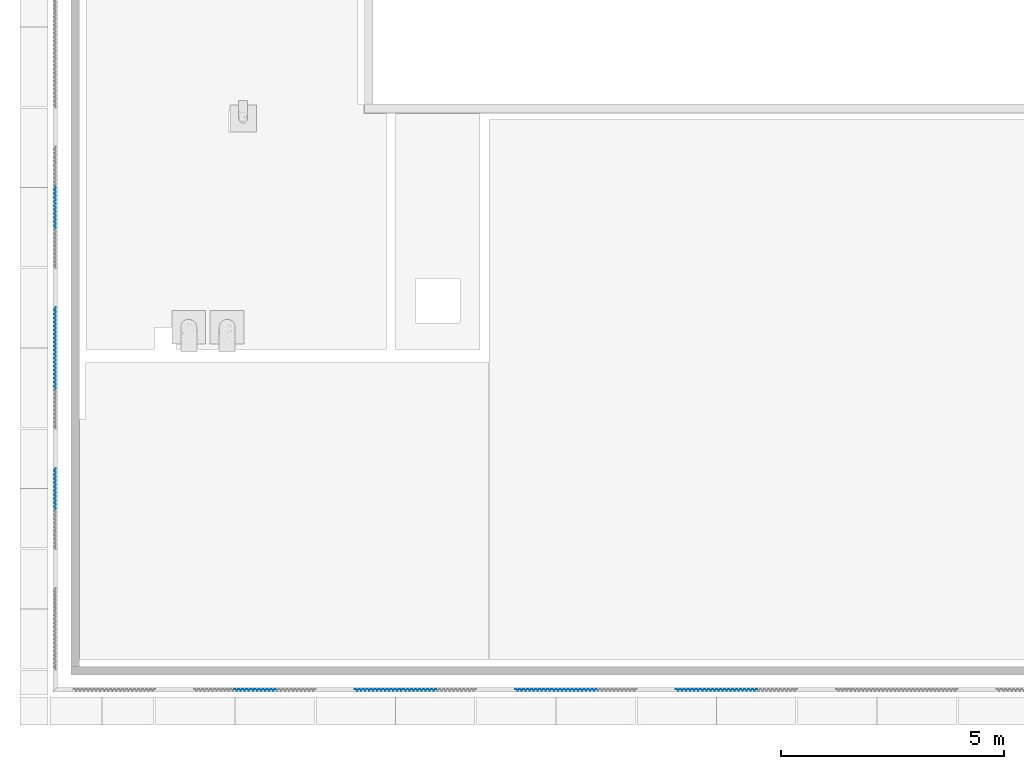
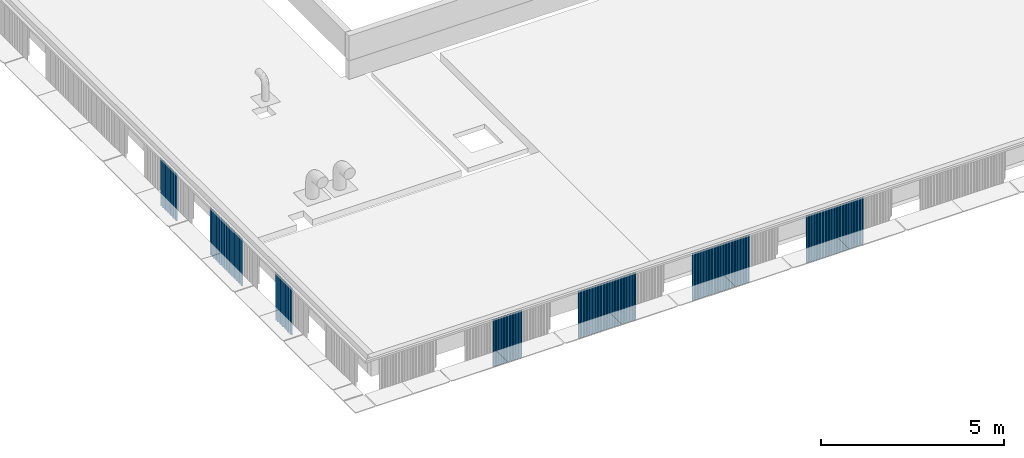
# One storey, part 8 of 37: 11 walls.
"""IFC4X3_ADD2 building model written with IfcOpenShell, lengths in millimetres."""

from ifc_helpers import new_model, si_unit, direction, frame, origin_with_axes, place, context, subcontext, project, spatial, polyline, outline, extrude, material, type_object, element, save


model = new_model("IFC4X3_ADD2")

# Units and contexts
model_context = context("Model", 3, precision=1e-05, world=origin_with_axes(), true_north=direction((0.0, 1.0)))
body_context = subcontext(model_context, "Body", "Model", "MODEL_VIEW")
ifc_project = project(units=[si_unit("LENGTHUNIT", "METRE", prefix="MILLI"), si_unit("AREAUNIT", "SQUARE_METRE"), si_unit("VOLUMEUNIT", "CUBIC_METRE"), si_unit("PLANEANGLEUNIT", "RADIAN"), si_unit("TIMEUNIT", "SECOND"), si_unit("MASSUNIT", "GRAM")], contexts=[model_context])

# Site, building, storey
site_placement = place(None, origin_with_axes())
site = spatial("IfcSite", under=ifc_project, at=site_placement, Name="Site", CompositionType="ELEMENT")
building_placement = place(site_placement, origin_with_axes())
building = spatial("IfcBuilding", under=site, at=building_placement, Name="IFC Building Story")
storey_placement = place(building_placement, frame((0.0, 0.0, 14400.0), z_axis=(0.0, 0.0, 1.0), x_axis=(1.0, 0.0, 0.0)))
storey = spatial("IfcBuildingStorey", under=building, at=storey_placement, Name="040", Elevation=14400.0)

# Walls
ifc_material = material(Name="BB_Metaal_Aluminium_Puntprofiel")
wall_type = type_object("IfcWallType", Name="BB_Metaal_Aluminium_Puntprofiel 1", PredefinedType="NOTDEFINED", material=ifc_material)
wall_1_placement = place(storey_placement, origin_with_axes())
element("IfcWall", 1, at=wall_1_placement, inside=storey, type_object=wall_type, Name="BB_07.10_Gevelbekleding_PuntProfiel, 900 mm, vol_GMO:900 x 1600 mm", ObjectType="BB_07.10_Gevelbekleding_PuntProfiel, 900 mm, vol_GMO:900 x 1600 mm", PredefinedType="NOTDEFINED", context=body_context, shape_type="SweptSolid", body=[
    extrude(outline(polyline([(-349.00000000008, 10.06027913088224), (-371.0000000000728, 10.06027913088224), (-405.0000000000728, -23.93972086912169), (-439.0000000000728, 10.06027913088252), (-461.0000000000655, 10.06027913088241), (-461.4142135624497, 11.060279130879), (-438.5857864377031, 11.060279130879), (-405.0000000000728, -22.52550730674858), (-371.414213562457, 11.06027913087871), (-348.5857864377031, 11.06027913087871), (-315.00000000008, -22.52550730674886), (-281.4142135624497, 11.06027913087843), (-258.5857864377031, 11.06027913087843), (-225.0000000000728, -22.52550730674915), (-191.4142135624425, 11.06027913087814), (-168.5857864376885, 11.06027913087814), (-135.0000000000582, -22.52550730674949), (-101.4142135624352, 11.06027913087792), (-78.58578643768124, 11.06027913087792), (-45.00000000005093, -22.52550730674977), (-11.41421356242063, 11.06027913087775), (11.41421356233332, 11.06027913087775), (44.99999999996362, -22.52550730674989), (78.58578643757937, 11.0602791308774), (101.4142135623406, 11.0602791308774), (134.9999999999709, -22.52550730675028), (168.5857864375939, 11.06027913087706), (191.4142135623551, 11.06027913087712), (224.9999999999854, -22.52550730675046), (258.5857864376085, 11.06027913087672), (281.4142135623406, 11.06027913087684), (314.9999999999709, -22.52550730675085), (348.5857864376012, 11.06027913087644), (371.4142135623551, 11.06027913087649), (404.9999999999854, -22.52550730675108), (438.5857864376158, 11.06027913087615), (461.4142135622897, 11.06027913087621), (460.9999999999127, 10.06027913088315), (438.9999999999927, 10.06027913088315), (404.9999999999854, -23.93972086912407), (370.9999999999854, 10.06027913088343), (348.9999999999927, 10.06027913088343), (314.9999999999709, -23.93972086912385), (280.9999999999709, 10.06027913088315), (259.0, 10.06027913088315), (224.9999999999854, -23.93972086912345), (190.9999999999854, 10.060279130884), (168.9999999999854, 10.060279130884), (134.9999999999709, -23.93972086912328), (100.9999999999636, 10.06027913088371), (78.9999999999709, 10.06027913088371), (44.99999999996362, -23.93972086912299), (10.99999999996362, 10.06027913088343), (-11.00000000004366, 10.06027913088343), (-45.00000000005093, -23.93972086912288), (-79.00000000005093, 10.06027913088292), (-101.0000000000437, 10.06027913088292), (-135.0000000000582, -23.9397208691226), (-169.0000000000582, 10.06027913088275), (-191.0000000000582, 10.06027913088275), (-225.0000000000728, -23.93972086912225), (-259.0000000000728, 10.06027913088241), (-281.0000000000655, 10.06027913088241), (-315.00000000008, -23.93972086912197), (-349.00000000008, 10.06027913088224)])), frame((-41250.00000000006, -426.0602791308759, -960.0), z_axis=(0.0, 0.0, 1.0), x_axis=(1.0, 0.0, 0.0)), (0.0, 0.0, 1.0), 1600.0),
])
wall_2_placement = place(storey_placement, origin_with_axes())
element("IfcWall", 2, at=wall_2_placement, inside=storey, type_object=wall_type, Name="BB_07.10_Gevelbekleding_PuntProfiel, 900 mm, vol_GMO:900 x 1600 mm", ObjectType="BB_07.10_Gevelbekleding_PuntProfiel, 900 mm, vol_GMO:900 x 1600 mm", PredefinedType="NOTDEFINED", context=body_context, shape_type="SweptSolid", body=[
    extrude(outline(polyline([(-349.00000000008, 10.06027913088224), (-371.0000000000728, 10.06027913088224), (-405.0000000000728, -23.93972086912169), (-439.0000000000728, 10.06027913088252), (-461.0000000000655, 10.06027913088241), (-461.4142135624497, 11.060279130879), (-438.5857864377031, 11.060279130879), (-405.0000000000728, -22.52550730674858), (-371.414213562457, 11.06027913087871), (-348.5857864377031, 11.06027913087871), (-315.00000000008, -22.52550730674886), (-281.4142135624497, 11.06027913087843), (-258.5857864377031, 11.06027913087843), (-225.0000000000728, -22.52550730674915), (-191.4142135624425, 11.06027913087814), (-168.5857864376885, 11.06027913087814), (-135.0000000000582, -22.52550730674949), (-101.4142135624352, 11.06027913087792), (-78.58578643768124, 11.06027913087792), (-45.00000000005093, -22.52550730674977), (-11.41421356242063, 11.06027913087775), (11.41421356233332, 11.06027913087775), (44.99999999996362, -22.52550730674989), (78.58578643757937, 11.0602791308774), (101.4142135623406, 11.0602791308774), (134.9999999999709, -22.52550730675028), (168.5857864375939, 11.06027913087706), (191.4142135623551, 11.06027913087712), (224.9999999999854, -22.52550730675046), (258.5857864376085, 11.06027913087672), (281.4142135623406, 11.06027913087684), (314.9999999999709, -22.52550730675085), (348.5857864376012, 11.06027913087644), (371.4142135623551, 11.06027913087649), (404.9999999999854, -22.52550730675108), (438.5857864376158, 11.06027913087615), (461.4142135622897, 11.06027913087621), (460.9999999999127, 10.06027913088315), (438.9999999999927, 10.06027913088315), (404.9999999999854, -23.93972086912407), (370.9999999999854, 10.06027913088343), (348.9999999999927, 10.06027913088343), (314.9999999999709, -23.93972086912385), (280.9999999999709, 10.06027913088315), (259.0, 10.06027913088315), (224.9999999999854, -23.93972086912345), (190.9999999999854, 10.060279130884), (168.9999999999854, 10.060279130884), (134.9999999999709, -23.93972086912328), (100.9999999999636, 10.06027913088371), (78.9999999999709, 10.06027913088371), (44.99999999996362, -23.93972086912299), (10.99999999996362, 10.06027913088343), (-11.00000000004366, 10.06027913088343), (-45.00000000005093, -23.93972086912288), (-79.00000000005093, 10.06027913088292), (-101.0000000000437, 10.06027913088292), (-135.0000000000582, -23.9397208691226), (-169.0000000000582, 10.06027913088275), (-191.0000000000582, 10.06027913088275), (-225.0000000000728, -23.93972086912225), (-259.0000000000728, 10.06027913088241), (-281.0000000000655, 10.06027913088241), (-315.00000000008, -23.93972086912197), (-349.00000000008, 10.06027913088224)])), frame((-38550.0, -426.0602791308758, -960.0), z_axis=(0.0, 0.0, 1.0), x_axis=(1.0, 0.0, 0.0)), (0.0, 0.0, 1.0), 1600.0),
])
wall_3_placement = place(storey_placement, origin_with_axes())
element("IfcWall", 3, at=wall_3_placement, inside=storey, type_object=wall_type, Name="BB_07.10_Gevelbekleding_PuntProfiel, 900 mm, vol_GMO:900 x 1600 mm", ObjectType="BB_07.10_Gevelbekleding_PuntProfiel, 900 mm, vol_GMO:900 x 1600 mm", PredefinedType="NOTDEFINED", context=body_context, shape_type="SweptSolid", body=[
    extrude(outline(polyline([(-349.00000000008, 10.06027913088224), (-371.0000000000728, 10.06027913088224), (-405.0000000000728, -23.93972086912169), (-439.0000000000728, 10.06027913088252), (-461.0000000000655, 10.06027913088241), (-461.4142135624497, 11.060279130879), (-438.5857864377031, 11.060279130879), (-405.0000000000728, -22.52550730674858), (-371.414213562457, 11.06027913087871), (-348.5857864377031, 11.06027913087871), (-315.00000000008, -22.52550730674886), (-281.4142135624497, 11.06027913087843), (-258.5857864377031, 11.06027913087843), (-225.0000000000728, -22.52550730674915), (-191.4142135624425, 11.06027913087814), (-168.5857864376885, 11.06027913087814), (-135.0000000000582, -22.52550730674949), (-101.4142135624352, 11.06027913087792), (-78.58578643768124, 11.06027913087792), (-45.00000000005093, -22.52550730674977), (-11.41421356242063, 11.06027913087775), (11.41421356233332, 11.06027913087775), (44.99999999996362, -22.52550730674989), (78.58578643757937, 11.0602791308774), (101.4142135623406, 11.0602791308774), (134.9999999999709, -22.52550730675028), (168.5857864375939, 11.06027913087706), (191.4142135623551, 11.06027913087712), (224.9999999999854, -22.52550730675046), (258.5857864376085, 11.06027913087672), (281.4142135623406, 11.06027913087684), (314.9999999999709, -22.52550730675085), (348.5857864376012, 11.06027913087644), (371.4142135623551, 11.06027913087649), (404.9999999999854, -22.52550730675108), (438.5857864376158, 11.06027913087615), (461.4142135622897, 11.06027913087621), (460.9999999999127, 10.06027913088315), (438.9999999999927, 10.06027913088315), (404.9999999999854, -23.93972086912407), (370.9999999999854, 10.06027913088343), (348.9999999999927, 10.06027913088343), (314.9999999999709, -23.93972086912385), (280.9999999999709, 10.06027913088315), (259.0, 10.06027913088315), (224.9999999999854, -23.93972086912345), (190.9999999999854, 10.060279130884), (168.9999999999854, 10.060279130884), (134.9999999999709, -23.93972086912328), (100.9999999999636, 10.06027913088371), (78.9999999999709, 10.06027913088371), (44.99999999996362, -23.93972086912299), (10.99999999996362, 10.06027913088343), (-11.00000000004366, 10.06027913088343), (-45.00000000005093, -23.93972086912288), (-79.00000000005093, 10.06027913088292), (-101.0000000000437, 10.06027913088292), (-135.0000000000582, -23.9397208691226), (-169.0000000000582, 10.06027913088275), (-191.0000000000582, 10.06027913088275), (-225.0000000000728, -23.93972086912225), (-259.0000000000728, 10.06027913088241), (-281.0000000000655, 10.06027913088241), (-315.00000000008, -23.93972086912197), (-349.00000000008, 10.06027913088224)])), frame((-37650.00000000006, -426.0602791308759, -960.0), z_axis=(0.0, 0.0, 1.0), x_axis=(1.0, 0.0, 0.0)), (0.0, 0.0, 1.0), 1600.0),
])
wall_4_placement = place(storey_placement, origin_with_axes())
element("IfcWall", 4, at=wall_4_placement, inside=storey, type_object=wall_type, Name="BB_07.10_Gevelbekleding_PuntProfiel, 900 mm, vol_GMO:900 x 1600 mm", ObjectType="BB_07.10_Gevelbekleding_PuntProfiel, 900 mm, vol_GMO:900 x 1600 mm", PredefinedType="NOTDEFINED", context=body_context, shape_type="SweptSolid", body=[
    extrude(outline(polyline([(-349.00000000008, 10.06027913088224), (-371.0000000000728, 10.06027913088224), (-405.0000000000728, -23.93972086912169), (-439.0000000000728, 10.06027913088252), (-461.0000000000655, 10.06027913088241), (-461.4142135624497, 11.060279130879), (-438.5857864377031, 11.060279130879), (-405.0000000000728, -22.52550730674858), (-371.414213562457, 11.06027913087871), (-348.5857864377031, 11.06027913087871), (-315.00000000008, -22.52550730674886), (-281.4142135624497, 11.06027913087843), (-258.5857864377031, 11.06027913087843), (-225.0000000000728, -22.52550730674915), (-191.4142135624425, 11.06027913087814), (-168.5857864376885, 11.06027913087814), (-135.0000000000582, -22.52550730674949), (-101.4142135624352, 11.06027913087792), (-78.58578643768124, 11.06027913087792), (-45.00000000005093, -22.52550730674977), (-11.41421356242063, 11.06027913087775), (11.41421356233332, 11.06027913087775), (44.99999999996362, -22.52550730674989), (78.58578643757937, 11.0602791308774), (101.4142135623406, 11.0602791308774), (134.9999999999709, -22.52550730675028), (168.5857864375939, 11.06027913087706), (191.4142135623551, 11.06027913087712), (224.9999999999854, -22.52550730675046), (258.5857864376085, 11.06027913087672), (281.4142135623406, 11.06027913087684), (314.9999999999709, -22.52550730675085), (348.5857864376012, 11.06027913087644), (371.4142135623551, 11.06027913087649), (404.9999999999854, -22.52550730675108), (438.5857864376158, 11.06027913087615), (461.4142135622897, 11.06027913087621), (460.9999999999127, 10.06027913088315), (438.9999999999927, 10.06027913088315), (404.9999999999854, -23.93972086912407), (370.9999999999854, 10.06027913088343), (348.9999999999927, 10.06027913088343), (314.9999999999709, -23.93972086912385), (280.9999999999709, 10.06027913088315), (259.0, 10.06027913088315), (224.9999999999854, -23.93972086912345), (190.9999999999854, 10.060279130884), (168.9999999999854, 10.060279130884), (134.9999999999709, -23.93972086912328), (100.9999999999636, 10.06027913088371), (78.9999999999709, 10.06027913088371), (44.99999999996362, -23.93972086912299), (10.99999999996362, 10.06027913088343), (-11.00000000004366, 10.06027913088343), (-45.00000000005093, -23.93972086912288), (-79.00000000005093, 10.06027913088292), (-101.0000000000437, 10.06027913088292), (-135.0000000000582, -23.9397208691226), (-169.0000000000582, 10.06027913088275), (-191.0000000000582, 10.06027913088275), (-225.0000000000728, -23.93972086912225), (-259.0000000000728, 10.06027913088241), (-281.0000000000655, 10.06027913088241), (-315.00000000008, -23.93972086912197), (-349.00000000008, 10.06027913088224)])), frame((-34950.00000000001, -426.0602791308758, -960.0), z_axis=(0.0, 0.0, 1.0), x_axis=(1.0, 0.0, 0.0)), (0.0, 0.0, 1.0), 1600.0),
])
wall_5_placement = place(storey_placement, origin_with_axes())
element("IfcWall", 5, at=wall_5_placement, inside=storey, type_object=wall_type, Name="BB_07.10_Gevelbekleding_PuntProfiel, 900 mm, vol_GMO:900 x 1600 mm", ObjectType="BB_07.10_Gevelbekleding_PuntProfiel, 900 mm, vol_GMO:900 x 1600 mm", PredefinedType="NOTDEFINED", context=body_context, shape_type="SweptSolid", body=[
    extrude(outline(polyline([(-349.00000000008, 10.06027913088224), (-371.0000000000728, 10.06027913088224), (-405.0000000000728, -23.93972086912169), (-439.0000000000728, 10.06027913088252), (-461.0000000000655, 10.06027913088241), (-461.4142135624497, 11.060279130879), (-438.5857864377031, 11.060279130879), (-405.0000000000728, -22.52550730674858), (-371.414213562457, 11.06027913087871), (-348.5857864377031, 11.06027913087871), (-315.00000000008, -22.52550730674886), (-281.4142135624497, 11.06027913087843), (-258.5857864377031, 11.06027913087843), (-225.0000000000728, -22.52550730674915), (-191.4142135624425, 11.06027913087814), (-168.5857864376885, 11.06027913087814), (-135.0000000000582, -22.52550730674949), (-101.4142135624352, 11.06027913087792), (-78.58578643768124, 11.06027913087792), (-45.00000000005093, -22.52550730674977), (-11.41421356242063, 11.06027913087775), (11.41421356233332, 11.06027913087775), (44.99999999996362, -22.52550730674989), (78.58578643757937, 11.0602791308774), (101.4142135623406, 11.0602791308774), (134.9999999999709, -22.52550730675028), (168.5857864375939, 11.06027913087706), (191.4142135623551, 11.06027913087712), (224.9999999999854, -22.52550730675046), (258.5857864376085, 11.06027913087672), (281.4142135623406, 11.06027913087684), (314.9999999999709, -22.52550730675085), (348.5857864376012, 11.06027913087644), (371.4142135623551, 11.06027913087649), (404.9999999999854, -22.52550730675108), (438.5857864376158, 11.06027913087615), (461.4142135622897, 11.06027913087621), (460.9999999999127, 10.06027913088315), (438.9999999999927, 10.06027913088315), (404.9999999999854, -23.93972086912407), (370.9999999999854, 10.06027913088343), (348.9999999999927, 10.06027913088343), (314.9999999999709, -23.93972086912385), (280.9999999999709, 10.06027913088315), (259.0, 10.06027913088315), (224.9999999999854, -23.93972086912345), (190.9999999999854, 10.060279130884), (168.9999999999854, 10.060279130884), (134.9999999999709, -23.93972086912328), (100.9999999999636, 10.06027913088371), (78.9999999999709, 10.06027913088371), (44.99999999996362, -23.93972086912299), (10.99999999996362, 10.06027913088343), (-11.00000000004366, 10.06027913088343), (-45.00000000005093, -23.93972086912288), (-79.00000000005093, 10.06027913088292), (-101.0000000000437, 10.06027913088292), (-135.0000000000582, -23.9397208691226), (-169.0000000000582, 10.06027913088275), (-191.0000000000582, 10.06027913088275), (-225.0000000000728, -23.93972086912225), (-259.0000000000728, 10.06027913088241), (-281.0000000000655, 10.06027913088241), (-315.00000000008, -23.93972086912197), (-349.00000000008, 10.06027913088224)])), frame((-34050.00000000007, -426.0602791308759, -960.0), z_axis=(0.0, 0.0, 1.0), x_axis=(1.0, 0.0, 0.0)), (0.0, 0.0, 1.0), 1600.0),
])
wall_6_placement = place(storey_placement, origin_with_axes())
element("IfcWall", 6, at=wall_6_placement, inside=storey, type_object=wall_type, Name="BB_07.10_Gevelbekleding_PuntProfiel, 900 mm, vol_GMO:900 x 1600 mm", ObjectType="BB_07.10_Gevelbekleding_PuntProfiel, 900 mm, vol_GMO:900 x 1600 mm", PredefinedType="NOTDEFINED", context=body_context, shape_type="SweptSolid", body=[
    extrude(outline(polyline([(-349.00000000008, 10.06027913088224), (-371.0000000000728, 10.06027913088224), (-405.0000000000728, -23.93972086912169), (-439.0000000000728, 10.06027913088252), (-461.0000000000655, 10.06027913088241), (-461.4142135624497, 11.060279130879), (-438.5857864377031, 11.060279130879), (-405.0000000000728, -22.52550730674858), (-371.414213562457, 11.06027913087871), (-348.5857864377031, 11.06027913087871), (-315.00000000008, -22.52550730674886), (-281.4142135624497, 11.06027913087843), (-258.5857864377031, 11.06027913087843), (-225.0000000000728, -22.52550730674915), (-191.4142135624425, 11.06027913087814), (-168.5857864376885, 11.06027913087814), (-135.0000000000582, -22.52550730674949), (-101.4142135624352, 11.06027913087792), (-78.58578643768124, 11.06027913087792), (-45.00000000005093, -22.52550730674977), (-11.41421356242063, 11.06027913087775), (11.41421356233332, 11.06027913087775), (44.99999999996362, -22.52550730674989), (78.58578643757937, 11.0602791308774), (101.4142135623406, 11.0602791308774), (134.9999999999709, -22.52550730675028), (168.5857864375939, 11.06027913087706), (191.4142135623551, 11.06027913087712), (224.9999999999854, -22.52550730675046), (258.5857864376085, 11.06027913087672), (281.4142135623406, 11.06027913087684), (314.9999999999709, -22.52550730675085), (348.5857864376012, 11.06027913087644), (371.4142135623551, 11.06027913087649), (404.9999999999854, -22.52550730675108), (438.5857864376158, 11.06027913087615), (461.4142135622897, 11.06027913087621), (460.9999999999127, 10.06027913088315), (438.9999999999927, 10.06027913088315), (404.9999999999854, -23.93972086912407), (370.9999999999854, 10.06027913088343), (348.9999999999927, 10.06027913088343), (314.9999999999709, -23.93972086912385), (280.9999999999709, 10.06027913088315), (259.0, 10.06027913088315), (224.9999999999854, -23.93972086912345), (190.9999999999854, 10.060279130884), (168.9999999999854, 10.060279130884), (134.9999999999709, -23.93972086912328), (100.9999999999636, 10.06027913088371), (78.9999999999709, 10.06027913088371), (44.99999999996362, -23.93972086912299), (10.99999999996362, 10.06027913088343), (-11.00000000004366, 10.06027913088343), (-45.00000000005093, -23.93972086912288), (-79.00000000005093, 10.06027913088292), (-101.0000000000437, 10.06027913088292), (-135.0000000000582, -23.9397208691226), (-169.0000000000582, 10.06027913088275), (-191.0000000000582, 10.06027913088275), (-225.0000000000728, -23.93972086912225), (-259.0000000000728, 10.06027913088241), (-281.0000000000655, 10.06027913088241), (-315.00000000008, -23.93972086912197), (-349.00000000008, 10.06027913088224)])), frame((-31350.0, -426.0602791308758, -960.0), z_axis=(0.0, 0.0, 1.0), x_axis=(1.0, 0.0, 0.0)), (0.0, 0.0, 1.0), 1600.0),
])
wall_7_placement = place(storey_placement, origin_with_axes())
element("IfcWall", 7, at=wall_7_placement, inside=storey, type_object=wall_type, Name="BB_07.10_Gevelbekleding_PuntProfiel, 900 mm, vol_GMO:900 x 1600 mm", ObjectType="BB_07.10_Gevelbekleding_PuntProfiel, 900 mm, vol_GMO:900 x 1600 mm", PredefinedType="NOTDEFINED", context=body_context, shape_type="SweptSolid", body=[
    extrude(outline(polyline([(10.06027913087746, 349.0000000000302), (10.06027913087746, 371.0000000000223), (-23.93972086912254, 405.0000000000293), (10.06027913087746, 439.0000000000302), (10.06027913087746, 461.0000000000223), (11.06027913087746, 461.4142135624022), (11.06027913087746, 438.5857864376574), (-22.52550730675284, 405.0000000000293), (11.06027913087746, 371.4142135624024), (11.06027913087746, 348.5857864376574), (-22.52550730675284, 315.0000000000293), (11.06027913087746, 281.4142135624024), (11.06027913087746, 258.5857864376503), (-22.52550730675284, 225.0000000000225), (11.06027913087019, 191.4142135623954), (11.06027913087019, 168.5857864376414), (-22.52550730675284, 135.0000000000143), (11.06027913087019, 101.4142135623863), (11.06027913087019, 78.58578643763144), (-22.52550730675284, 45.00000000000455), (11.06027913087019, 11.41421356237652), (11.06027913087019, -11.41421356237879), (-22.52550730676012, -45.00000000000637), (11.06027913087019, -78.58578643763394), (11.06027913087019, -101.4142135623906), (-22.52550730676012, -135.0000000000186), (11.06027913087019, -168.5857864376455), (11.06027913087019, -191.4142135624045), (-22.52550730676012, -225.0000000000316), (11.06027913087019, -258.5857864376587), (11.06027913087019, -281.4142135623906), (-22.52550730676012, -315.0000000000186), (11.06027913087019, -348.5857864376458), (11.06027913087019, -371.4142135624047), (-22.52550730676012, -405.0000000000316), (11.06027913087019, -438.5857864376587), (11.06027913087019, -461.4142135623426), (10.06027913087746, -460.9999999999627), (10.06027913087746, -439.0000000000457), (-23.93972086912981, -405.0000000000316), (10.06027913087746, -371.0000000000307), (10.06027913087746, -349.0000000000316), (-23.93972086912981, -315.0000000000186), (10.06027913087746, -281.0000000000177), (10.06027913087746, -259.0000000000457), (-23.93972086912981, -225.0000000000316), (10.06027913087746, -191.0000000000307), (10.06027913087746, -169.0000000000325), (-23.93972086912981, -135.0000000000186), (10.06027913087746, -101.0000000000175), (10.06027913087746, -79.00000000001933), (-23.93972086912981, -45.00000000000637), (10.06027913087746, -11.00000000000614), (10.06027913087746, 10.9999999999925), (-23.93972086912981, 45.00000000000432), (10.06027913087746, 79.00000000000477), (10.06027913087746, 101.0000000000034), (-23.93972086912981, 135.0000000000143), (10.06027913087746, 169.0000000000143), (10.06027913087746, 191.0000000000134), (-23.93972086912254, 225.0000000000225), (10.06027913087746, 259.0000000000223), (10.06027913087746, 281.0000000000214), (-23.93972086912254, 315.0000000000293), (10.06027913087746, 349.0000000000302)])), frame((-45726.06027913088, 4080.000000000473, -960.0), z_axis=(0.0, 0.0, 1.0), x_axis=(1.0, 0.0, 0.0)), (0.0, 0.0, 1.0), 1600.0),
])
wall_8_placement = place(storey_placement, origin_with_axes())
element("IfcWall", 8, at=wall_8_placement, inside=storey, type_object=wall_type, Name="BB_07.10_Gevelbekleding_PuntProfiel, 900 mm, vol_GMO:900 x 1600 mm", ObjectType="BB_07.10_Gevelbekleding_PuntProfiel, 900 mm, vol_GMO:900 x 1600 mm", PredefinedType="NOTDEFINED", context=body_context, shape_type="SweptSolid", body=[
    extrude(outline(polyline([(10.06027913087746, 349.0000000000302), (10.06027913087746, 371.0000000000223), (-23.93972086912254, 405.0000000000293), (10.06027913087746, 439.0000000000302), (10.06027913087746, 461.0000000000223), (11.06027913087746, 461.4142135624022), (11.06027913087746, 438.5857864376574), (-22.52550730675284, 405.0000000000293), (11.06027913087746, 371.4142135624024), (11.06027913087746, 348.5857864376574), (-22.52550730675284, 315.0000000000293), (11.06027913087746, 281.4142135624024), (11.06027913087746, 258.5857864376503), (-22.52550730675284, 225.0000000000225), (11.06027913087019, 191.4142135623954), (11.06027913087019, 168.5857864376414), (-22.52550730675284, 135.0000000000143), (11.06027913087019, 101.4142135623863), (11.06027913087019, 78.58578643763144), (-22.52550730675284, 45.00000000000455), (11.06027913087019, 11.41421356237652), (11.06027913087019, -11.41421356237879), (-22.52550730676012, -45.00000000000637), (11.06027913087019, -78.58578643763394), (11.06027913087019, -101.4142135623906), (-22.52550730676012, -135.0000000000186), (11.06027913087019, -168.5857864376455), (11.06027913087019, -191.4142135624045), (-22.52550730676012, -225.0000000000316), (11.06027913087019, -258.5857864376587), (11.06027913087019, -281.4142135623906), (-22.52550730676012, -315.0000000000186), (11.06027913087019, -348.5857864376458), (11.06027913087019, -371.4142135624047), (-22.52550730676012, -405.0000000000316), (11.06027913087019, -438.5857864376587), (11.06027913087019, -461.4142135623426), (10.06027913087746, -460.9999999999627), (10.06027913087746, -439.0000000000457), (-23.93972086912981, -405.0000000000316), (10.06027913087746, -371.0000000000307), (10.06027913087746, -349.0000000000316), (-23.93972086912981, -315.0000000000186), (10.06027913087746, -281.0000000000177), (10.06027913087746, -259.0000000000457), (-23.93972086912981, -225.0000000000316), (10.06027913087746, -191.0000000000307), (10.06027913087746, -169.0000000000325), (-23.93972086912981, -135.0000000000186), (10.06027913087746, -101.0000000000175), (10.06027913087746, -79.00000000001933), (-23.93972086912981, -45.00000000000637), (10.06027913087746, -11.00000000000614), (10.06027913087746, 10.9999999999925), (-23.93972086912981, 45.00000000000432), (10.06027913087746, 79.00000000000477), (10.06027913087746, 101.0000000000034), (-23.93972086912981, 135.0000000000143), (10.06027913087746, 169.0000000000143), (10.06027913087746, 191.0000000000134), (-23.93972086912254, 225.0000000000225), (10.06027913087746, 259.0000000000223), (10.06027913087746, 281.0000000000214), (-23.93972086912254, 315.0000000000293), (10.06027913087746, 349.0000000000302)])), frame((-45726.06027913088, 6780.000000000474, -960.0), z_axis=(0.0, 0.0, 1.0), x_axis=(1.0, 0.0, 0.0)), (0.0, 0.0, 1.0), 1600.0),
])
wall_9_placement = place(storey_placement, origin_with_axes())
element("IfcWall", 9, at=wall_9_placement, inside=storey, type_object=wall_type, Name="BB_07.10_Gevelbekleding_PuntProfiel, 900 mm, vol_GMO:900 x 1600 mm", ObjectType="BB_07.10_Gevelbekleding_PuntProfiel, 900 mm, vol_GMO:900 x 1600 mm", PredefinedType="NOTDEFINED", context=body_context, shape_type="SweptSolid", body=[
    extrude(outline(polyline([(10.06027913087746, 349.0000000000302), (10.06027913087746, 371.0000000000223), (-23.93972086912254, 405.0000000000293), (10.06027913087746, 439.0000000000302), (10.06027913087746, 461.0000000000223), (11.06027913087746, 461.4142135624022), (11.06027913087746, 438.5857864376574), (-22.52550730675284, 405.0000000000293), (11.06027913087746, 371.4142135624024), (11.06027913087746, 348.5857864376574), (-22.52550730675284, 315.0000000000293), (11.06027913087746, 281.4142135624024), (11.06027913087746, 258.5857864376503), (-22.52550730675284, 225.0000000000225), (11.06027913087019, 191.4142135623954), (11.06027913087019, 168.5857864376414), (-22.52550730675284, 135.0000000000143), (11.06027913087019, 101.4142135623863), (11.06027913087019, 78.58578643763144), (-22.52550730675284, 45.00000000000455), (11.06027913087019, 11.41421356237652), (11.06027913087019, -11.41421356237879), (-22.52550730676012, -45.00000000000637), (11.06027913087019, -78.58578643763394), (11.06027913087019, -101.4142135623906), (-22.52550730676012, -135.0000000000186), (11.06027913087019, -168.5857864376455), (11.06027913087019, -191.4142135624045), (-22.52550730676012, -225.0000000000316), (11.06027913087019, -258.5857864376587), (11.06027913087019, -281.4142135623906), (-22.52550730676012, -315.0000000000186), (11.06027913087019, -348.5857864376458), (11.06027913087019, -371.4142135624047), (-22.52550730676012, -405.0000000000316), (11.06027913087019, -438.5857864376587), (11.06027913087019, -461.4142135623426), (10.06027913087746, -460.9999999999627), (10.06027913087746, -439.0000000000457), (-23.93972086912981, -405.0000000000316), (10.06027913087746, -371.0000000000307), (10.06027913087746, -349.0000000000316), (-23.93972086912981, -315.0000000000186), (10.06027913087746, -281.0000000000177), (10.06027913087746, -259.0000000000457), (-23.93972086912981, -225.0000000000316), (10.06027913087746, -191.0000000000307), (10.06027913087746, -169.0000000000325), (-23.93972086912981, -135.0000000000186), (10.06027913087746, -101.0000000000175), (10.06027913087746, -79.00000000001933), (-23.93972086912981, -45.00000000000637), (10.06027913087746, -11.00000000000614), (10.06027913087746, 10.9999999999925), (-23.93972086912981, 45.00000000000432), (10.06027913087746, 79.00000000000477), (10.06027913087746, 101.0000000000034), (-23.93972086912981, 135.0000000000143), (10.06027913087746, 169.0000000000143), (10.06027913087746, 191.0000000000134), (-23.93972086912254, 225.0000000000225), (10.06027913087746, 259.0000000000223), (10.06027913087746, 281.0000000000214), (-23.93972086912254, 315.0000000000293), (10.06027913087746, 349.0000000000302)])), frame((-45726.06027913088, 7680.000000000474, -960.0), z_axis=(0.0, 0.0, 1.0), x_axis=(1.0, 0.0, 0.0)), (0.0, 0.0, 1.0), 1600.0),
])
wall_10_placement = place(storey_placement, origin_with_axes())
element("IfcWall", 10, at=wall_10_placement, inside=storey, type_object=wall_type, Name="BB_07.10_Gevelbekleding_PuntProfiel, 900 mm, vol_GMO:900 x 1600 mm", ObjectType="BB_07.10_Gevelbekleding_PuntProfiel, 900 mm, vol_GMO:900 x 1600 mm", PredefinedType="NOTDEFINED", context=body_context, shape_type="SweptSolid", body=[
    extrude(outline(polyline([(10.06027913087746, 349.0000000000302), (10.06027913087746, 371.0000000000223), (-23.93972086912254, 405.0000000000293), (10.06027913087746, 439.0000000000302), (10.06027913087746, 461.0000000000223), (11.06027913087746, 461.4142135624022), (11.06027913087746, 438.5857864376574), (-22.52550730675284, 405.0000000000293), (11.06027913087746, 371.4142135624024), (11.06027913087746, 348.5857864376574), (-22.52550730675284, 315.0000000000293), (11.06027913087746, 281.4142135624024), (11.06027913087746, 258.5857864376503), (-22.52550730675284, 225.0000000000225), (11.06027913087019, 191.4142135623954), (11.06027913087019, 168.5857864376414), (-22.52550730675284, 135.0000000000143), (11.06027913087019, 101.4142135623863), (11.06027913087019, 78.58578643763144), (-22.52550730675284, 45.00000000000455), (11.06027913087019, 11.41421356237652), (11.06027913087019, -11.41421356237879), (-22.52550730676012, -45.00000000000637), (11.06027913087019, -78.58578643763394), (11.06027913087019, -101.4142135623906), (-22.52550730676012, -135.0000000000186), (11.06027913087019, -168.5857864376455), (11.06027913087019, -191.4142135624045), (-22.52550730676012, -225.0000000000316), (11.06027913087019, -258.5857864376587), (11.06027913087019, -281.4142135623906), (-22.52550730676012, -315.0000000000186), (11.06027913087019, -348.5857864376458), (11.06027913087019, -371.4142135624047), (-22.52550730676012, -405.0000000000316), (11.06027913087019, -438.5857864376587), (11.06027913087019, -461.4142135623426), (10.06027913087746, -460.9999999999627), (10.06027913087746, -439.0000000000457), (-23.93972086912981, -405.0000000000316), (10.06027913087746, -371.0000000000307), (10.06027913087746, -349.0000000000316), (-23.93972086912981, -315.0000000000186), (10.06027913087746, -281.0000000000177), (10.06027913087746, -259.0000000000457), (-23.93972086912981, -225.0000000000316), (10.06027913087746, -191.0000000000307), (10.06027913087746, -169.0000000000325), (-23.93972086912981, -135.0000000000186), (10.06027913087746, -101.0000000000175), (10.06027913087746, -79.00000000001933), (-23.93972086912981, -45.00000000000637), (10.06027913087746, -11.00000000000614), (10.06027913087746, 10.9999999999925), (-23.93972086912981, 45.00000000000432), (10.06027913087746, 79.00000000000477), (10.06027913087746, 101.0000000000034), (-23.93972086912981, 135.0000000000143), (10.06027913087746, 169.0000000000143), (10.06027913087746, 191.0000000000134), (-23.93972086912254, 225.0000000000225), (10.06027913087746, 259.0000000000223), (10.06027913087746, 281.0000000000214), (-23.93972086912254, 315.0000000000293), (10.06027913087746, 349.0000000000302)])), frame((-45726.06027913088, 10380.00000000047, -960.0), z_axis=(0.0, 0.0, 1.0), x_axis=(1.0, 0.0, 0.0)), (0.0, 0.0, 1.0), 1600.0),
])
wall_11_placement = place(storey_placement, origin_with_axes())
element("IfcWall", 11, at=wall_11_placement, inside=storey, type_object=wall_type, Name="BB_07.10_Gevelbekleding_PuntProfiel, 900 mm, vol_GMO:900 x 1600 mm", ObjectType="BB_07.10_Gevelbekleding_PuntProfiel, 900 mm, vol_GMO:900 x 1600 mm", PredefinedType="NOTDEFINED", context=body_context, shape_type="SweptSolid", body=[
    extrude(outline(polyline([(-349.00000000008, 10.06027913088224), (-371.0000000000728, 10.06027913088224), (-405.0000000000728, -23.93972086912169), (-439.0000000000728, 10.06027913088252), (-461.0000000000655, 10.06027913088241), (-461.4142135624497, 11.060279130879), (-438.5857864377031, 11.060279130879), (-405.0000000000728, -22.52550730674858), (-371.414213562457, 11.06027913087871), (-348.5857864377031, 11.06027913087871), (-315.00000000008, -22.52550730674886), (-281.4142135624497, 11.06027913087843), (-258.5857864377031, 11.06027913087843), (-225.0000000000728, -22.52550730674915), (-191.4142135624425, 11.06027913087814), (-168.5857864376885, 11.06027913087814), (-135.0000000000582, -22.52550730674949), (-101.4142135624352, 11.06027913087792), (-78.58578643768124, 11.06027913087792), (-45.00000000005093, -22.52550730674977), (-11.41421356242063, 11.06027913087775), (11.41421356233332, 11.06027913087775), (44.99999999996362, -22.52550730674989), (78.58578643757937, 11.0602791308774), (101.4142135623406, 11.0602791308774), (134.9999999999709, -22.52550730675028), (168.5857864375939, 11.06027913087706), (191.4142135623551, 11.06027913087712), (224.9999999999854, -22.52550730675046), (258.5857864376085, 11.06027913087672), (281.4142135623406, 11.06027913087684), (314.9999999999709, -22.52550730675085), (348.5857864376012, 11.06027913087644), (371.4142135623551, 11.06027913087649), (404.9999999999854, -22.52550730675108), (438.5857864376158, 11.06027913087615), (461.4142135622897, 11.06027913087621), (460.9999999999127, 10.06027913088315), (438.9999999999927, 10.06027913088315), (404.9999999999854, -23.93972086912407), (370.9999999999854, 10.06027913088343), (348.9999999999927, 10.06027913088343), (314.9999999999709, -23.93972086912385), (280.9999999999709, 10.06027913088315), (259.0, 10.06027913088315), (224.9999999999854, -23.93972086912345), (190.9999999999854, 10.060279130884), (168.9999999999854, 10.060279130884), (134.9999999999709, -23.93972086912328), (100.9999999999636, 10.06027913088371), (78.9999999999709, 10.06027913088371), (44.99999999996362, -23.93972086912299), (10.99999999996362, 10.06027913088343), (-11.00000000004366, 10.06027913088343), (-45.00000000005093, -23.93972086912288), (-79.00000000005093, 10.06027913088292), (-101.0000000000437, 10.06027913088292), (-135.0000000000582, -23.9397208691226), (-169.0000000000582, 10.06027913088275), (-191.0000000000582, 10.06027913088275), (-225.0000000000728, -23.93972086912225), (-259.0000000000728, 10.06027913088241), (-281.0000000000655, 10.06027913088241), (-315.00000000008, -23.93972086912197), (-349.00000000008, 10.06027913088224)])), frame((-30450.0, -426.0602791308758, -960.0), z_axis=(0.0, 0.0, 1.0), x_axis=(1.0, 0.0, 0.0)), (0.0, 0.0, 1.0), 1600.0),
])

save(model, "model.ifc")
